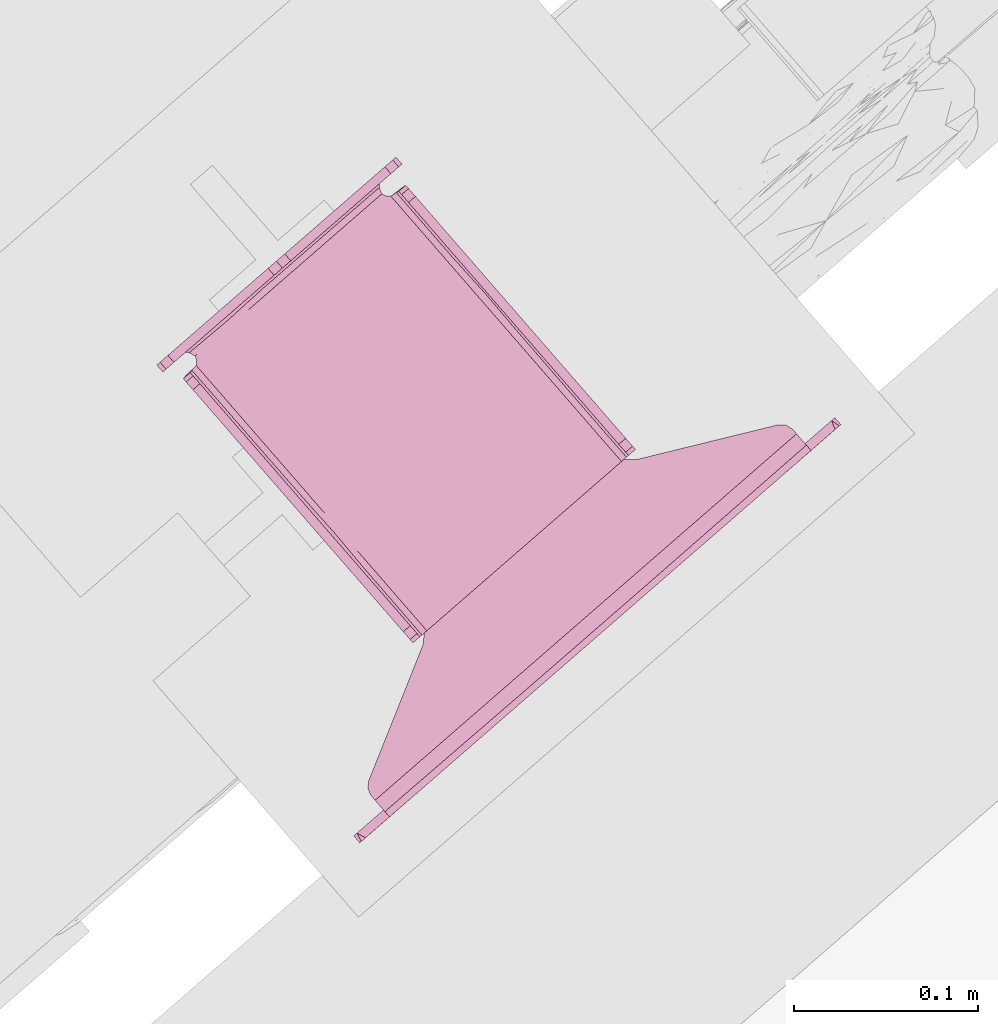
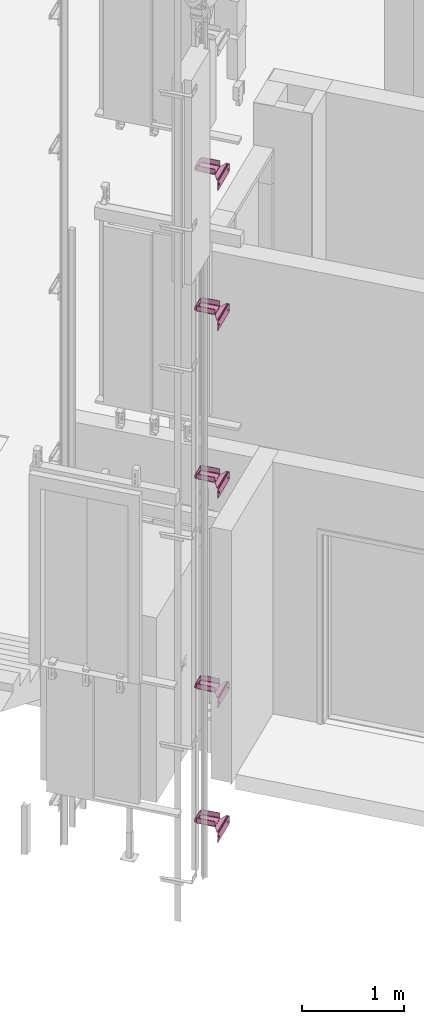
# One storey, part 115 of 124: 5 transport elements.
"""IFC2X3 building model written with IfcOpenShell, lengths in millimetres."""

from ifc_helpers import new_model, entity, si_unit, converted_unit, derived_unit, money_unit, direction, frame, origin_with_axes, place, context, subcontext, project, spatial, faceted_brep, source, transform, mapped, material, material_list, type_object, element, save


model = new_model("IFC2X3")

# Units and contexts
model_context = context("Model", 3, precision=1e-05, world=origin_with_axes(), true_north=direction((0.0, 1.0)))
body_context = subcontext(model_context, "Body", "Model", "MODEL_VIEW")
ifc_project = project(units=[si_unit("LENGTHUNIT", "METRE", prefix="MILLI"), si_unit("AREAUNIT", "SQUARE_METRE"), si_unit("VOLUMEUNIT", "CUBIC_METRE"), converted_unit("PLANEANGLEUNIT", "DEGREE", entity("IfcPlaneAngleMeasure", 0.0174532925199), si_unit("PLANEANGLEUNIT", "RADIAN"), dimensions=[0, 0, 0, 0, 0, 0, 0]), si_unit("SOLIDANGLEUNIT", "STERADIAN"), money_unit("EUR"), converted_unit("TIMEUNIT", "Year", entity("IfcTimeMeasure", 31556926.0), si_unit("TIMEUNIT", "SECOND"), dimensions=[0, 0, 1, 0, 0, 0, 0]), si_unit("MASSUNIT", "GRAM", prefix="KILO"), si_unit("THERMODYNAMICTEMPERATUREUNIT", "DEGREE_CELSIUS"), si_unit("LUMINOUSINTENSITYUNIT", "LUMEN"), si_unit("ENERGYUNIT", "JOULE", prefix="MEGA"), derived_unit("THERMALCONDUCTANCEUNIT", [(si_unit("POWERUNIT", "WATT"), 1), (si_unit("LENGTHUNIT", "METRE"), -1), (si_unit("THERMODYNAMICTEMPERATUREUNIT", "KELVIN"), -1)]), derived_unit("SPECIFICHEATCAPACITYUNIT", [(si_unit("ENERGYUNIT", "JOULE"), 1), (si_unit("MASSUNIT", "GRAM", prefix="KILO"), -1), (si_unit("THERMODYNAMICTEMPERATUREUNIT", "KELVIN"), -1)]), derived_unit("MASSDENSITYUNIT", [(si_unit("MASSUNIT", "GRAM", prefix="KILO"), 1), (si_unit("VOLUMEUNIT", "CUBIC_METRE"), -1)])], contexts=[model_context])

# Site, building, storey
site_placement = place(None, origin_with_axes())
site = spatial("IfcSite", under=ifc_project, at=site_placement, Name="Site", CompositionType="ELEMENT")
building_placement = place(site_placement, origin_with_axes())
building = spatial("IfcBuilding", under=site, at=building_placement, Name="Building", CompositionType="ELEMENT")
storey_placement = place(building_placement, frame((0.0, 0.0, -1615.0), z_axis=(0.0, 0.0, 1.0), x_axis=(1.0, 0.0, 0.0)))
storey = spatial("IfcBuildingStorey", under=building, at=storey_placement, Name="0  korrus", CompositionType="ELEMENT", Elevation=-1615.0)

# Transport elements
ifc_material = material(Name="Generic")
ifc_material_list = material_list([ifc_material, ifc_material])
transport_element_type_1 = type_object("IfcTransportElementType", Name="KONE_Combination_Bracket_KM927051G01_L205-370_LH:KONE_Combination_Bracket_KM927051G01_L205-370_LH", PredefinedType="NOTDEFINED")
shared_shape = source(origin_with_axes(), body_context, "Body", "Brep", [
    faceted_brep([(226.391689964, 263.0, 124.081378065), (226.391689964, 268.0, 124.081378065), (232.048544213, 268.0, 126.424523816), (232.048544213, 263.0, 126.424523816), (221.391689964, 263.0, 124.081378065), (221.391689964, 268.0, 124.081378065), (70.3916899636, 268.0, 124.081378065), (64.7348357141, 268.0, 126.424523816), (62.3916899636, 268.0, 132.081378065), (62.3916899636, 268.0, 160.081378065), (64.7348357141, 268.0, 165.738232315), (70.3916899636, 268.0, 168.081378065), (142.391689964, 268.0, 168.081378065), (148.391689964, 268.0, 162.081378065), (154.391689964, 268.0, 168.081378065), (226.391689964, 268.0, 168.081378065), (232.048544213, 268.0, 165.738232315), (234.391689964, 268.0, 160.081378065), (234.391689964, 268.0, 132.081378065), (219.659639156, 268.0, 123.825940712), (218.075065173, 268.0, 123.081378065), (162.866367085, 268.0, 123.081378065), (78.708314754, 268.0, 123.081378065), (77.1237407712, 268.0, 123.825940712), (75.3916899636, 268.0, 124.081378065), (234.391689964, 263.0, 132.081378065), (148.391689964, 263.0, 162.081378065), (142.391689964, 263.0, 168.081378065), (70.3916899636, 263.0, 168.081378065), (64.7348357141, 263.0, 165.738232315), (62.3916899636, 263.0, 160.081378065), (62.3916899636, 263.0, 132.081378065), (64.7348357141, 263.0, 126.424523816), (70.3916899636, 263.0, 124.081378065), (75.3916899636, 263.0, 124.081378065), (77.1237407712, 263.0, 123.825940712), (78.708314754, 263.0, 123.081378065), (117.746759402, 263.0, 123.081378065), (148.391689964, 263.0, 123.081378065), (179.036620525, 263.0, 123.081378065), (218.075065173, 263.0, 123.081378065), (219.659639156, 263.0, 123.825940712), (234.391689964, 263.0, 160.081378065), (232.048544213, 263.0, 165.738232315), (226.391689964, 263.0, 168.081378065), (154.391689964, 263.0, 168.081378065), (218.075065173, 264.422858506, 123.081378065), (218.075065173, 265.845717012, 123.081378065), (217.703937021, 267.749594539, 120.85755111), (79.0797029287, 267.749226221, 120.855936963), (78.708314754, 265.84568573, 123.081378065), (78.708314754, 264.422842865, 123.081378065), (106.600087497, 261.039236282, 119.111108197), (133.069221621, 261.599756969, 119.611255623), (167.910915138, 261.580662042, 119.591555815), (216.775423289, 261.535848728, 119.546159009), (216.955931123, 262.880428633, 119.164874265), (217.460292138, 264.642341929, 120.493695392), (217.367560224, 265.729464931, 119.559537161), (217.332566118, 267.010189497, 118.743580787), (79.2653304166, 266.244760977, 120.196452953), (79.4510926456, 267.00948187, 118.742111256), (79.3408235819, 264.89248632, 120.310720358), (79.6161585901, 263.338368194, 119.818731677), (80.0079137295, 261.535803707, 119.546113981), (158.723504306, 264.856323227, 115.801897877), (120.346214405, 258.0, 118.081378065), (80.747765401, 259.523295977, 118.712416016), (81.3077697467, 258.0, 118.081378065), (159.384659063, 258.0, 118.081378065), (176.437165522, 258.0, 118.081378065), (216.221761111, 260.849109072, 117.19656657), (216.77268185, 263.303970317, 117.760754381), (216.961157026, 265.818917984, 116.847236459), (79.8224825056, 265.817871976, 116.845924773), (80.0080506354, 263.312263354, 117.769046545), (80.3778398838, 261.333528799, 117.787138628), (81.3077697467, 258.0, 116.6585352), (215.475610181, 258.0, 118.081378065), (216.035614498, 259.523365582, 118.712456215), (216.589738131, 264.235458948, 115.2635106), (80.1938735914, 264.234158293, 115.262473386), (80.318762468, 255.575973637, 118.081378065), (78.3916899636, 253.803847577, 118.081378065), (78.3916899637, 214.765403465, 118.081378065), (78.3916899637, 175.726959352, 118.081378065), (78.3916899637, 147.545219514, 118.081378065), (78.3916899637, 119.363479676, 118.081378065), (78.3916899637, 102.038444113, 118.081378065), (78.3916899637, 63.0, 118.081378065), (218.391689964, 63.0, 118.081378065), (218.391689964, 102.038444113, 118.081378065), (218.391689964, 130.220183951, 118.081378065), (218.391689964, 158.401923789, 118.081378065), (218.391689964, 186.583663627, 118.081378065), (218.391689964, 214.765403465, 118.081378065), (218.391689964, 253.803847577, 118.081378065), (216.464617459, 255.575973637, 118.081378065), (81.3077697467, 258.0, 115.235692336), (81.3077697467, 258.0, 113.081378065), (80.318762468, 255.575973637, 113.081378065), (215.475610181, 258.0, 116.658519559), (215.475610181, 258.0, 115.235661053), (216.218390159, 262.339274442, 114.071899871), (80.5652646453, 262.337773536, 114.071177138), (78.3916899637, 253.803847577, 113.081378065), (78.3916899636, 253.803847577, 115.286270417), (78.3916899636, 253.803847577, 116.683824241), (74.9040391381, 224.325981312, 119.498600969), (74.912107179, 195.246183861, 119.490764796), (75.0247218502, 161.636091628, 119.384957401), (75.3733941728, 136.096414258, 119.095165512), (74.9234654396, 110.700959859, 119.479792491), (74.8561560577, 63.0, 119.545844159), (78.3916899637, 63.0, 115.581378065), (221.960404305, 92.278927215, 119.579338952), (221.994850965, 121.557663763, 119.61479029), (222.087500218, 155.067273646, 119.713739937), (222.389349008, 180.433874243, 120.078259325), (221.914531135, 205.50000201, 119.533196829), (221.92748804, 253.401866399, 119.54610835), (219.950700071, 253.626605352, 118.727209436), (218.391689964, 253.803847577, 116.683823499), (218.391689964, 253.803847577, 115.286268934), (218.391689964, 253.803847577, 113.081378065), (216.464617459, 255.575973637, 113.081378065), (215.475610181, 258.0, 113.081378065), (80.9366545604, 260.223829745, 113.331784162), (218.391689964, 198.595149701, 113.081378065), (218.391689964, 143.386451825, 113.081378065), (218.391689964, 63.0, 113.081378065), (78.3916899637, 63.0, 113.081378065), (78.3916899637, 143.386451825, 113.081378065), (78.3916899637, 198.595149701, 113.081378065), (136.51646853, 258.0, 113.081378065), (215.847005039, 260.225429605, 113.33214922), (76.1662538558, 253.688998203, 113.332150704), (75.5474605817, 253.573928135, 117.182621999), (76.8325408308, 253.626605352, 118.727284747), (74.855823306, 253.401894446, 119.546176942), (218.391689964, 63.0, 115.581378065), (221.92722387, 63.0, 119.545844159), (222.322349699, 253.456351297, 118.2110199), (221.004082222, 253.61189367, 116.446378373), (221.874411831, 253.587493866, 115.340416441), (220.615484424, 253.689082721, 113.331776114), (225.482173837, 170.186956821, 116.029779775), (226.238372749, 116.578488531, 116.882219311), (72.2295784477, 116.60942872, 115.20556816), (71.3012060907, 170.186956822, 116.029779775), (74.0524048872, 253.574151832, 114.071904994), (73.0861150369, 253.402741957, 117.759203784), (73.3916899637, 213.961555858, 123.081378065), (73.3916899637, 253.0, 123.081378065), (73.3916899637, 185.980777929, 123.081378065), (73.3916899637, 158.0, 123.081378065), (73.3916899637, 134.25, 123.081378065), (73.3916899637, 110.5, 123.081378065), (71.3206221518, 63.0, 116.010310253), (223.391689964, 102.038444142, 123.081378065), (223.391689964, 63.0, 123.081378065), (223.391689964, 141.076888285, 123.081378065), (223.391689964, 169.057666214, 123.081378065), (223.391689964, 197.038444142, 123.081378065), (223.391689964, 213.961555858, 123.081378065), (224.290495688, 253.229916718, 120.237161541), (222.72945989, 253.574240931, 114.0711754), (224.625814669, 253.459387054, 115.262446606), (225.462757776, 63.0, 116.010310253), (72.1562222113, 253.459317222, 115.263517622), (73.5212229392, 253.347488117, 119.150753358), (73.3916899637, 63.0, 123.081378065), (68.3916899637, 63.0, 123.081378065), (228.391689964, 63.0, 123.081378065), (223.391689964, 253.0, 123.081378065), (222.745907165, 253.177242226, 121.522155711), (223.713889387, 253.40110386, 117.775807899), (226.209550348, 253.344530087, 116.845910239), (228.391689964, 142.582604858, 123.081378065), (68.3916899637, 142.582604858, 123.081378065), (70.5727586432, 253.344460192, 116.847253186), (71.7566759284, 253.191952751, 120.468993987), (73.3916899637, 253.0, 170.081378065), (73.3916899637, 250.656854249, 175.738232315), (73.3916899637, 245.0, 178.081378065), (73.3916899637, 71.0, 178.081378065), (73.3916899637, 65.3431457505, 175.738232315), (73.3916899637, 63.0, 170.081378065), (71.9941361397, 253.0, 123.081378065), (223.391689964, 71.0, 178.081378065), (223.391689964, 245.0, 178.081378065), (223.391689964, 250.65685425, 175.738232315), (223.391689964, 253.0, 170.081378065), (223.391689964, 63.0, 170.081378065), (223.391689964, 65.3431457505, 175.738232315), (228.391689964, 63.0, 170.081378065), (224.789244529, 253.0, 123.081378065), (226.186799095, 253.0, 123.081378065), (228.391689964, 197.791302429, 123.081378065), (68.3916899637, 197.791302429, 123.081378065), (70.6507336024, 253.216353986, 119.598648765), (68.3916899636, 253.0, 123.081378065), (68.3916899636, 253.0, 170.081378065), (70.5965823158, 253.0, 123.081378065), (68.3916899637, 250.656854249, 175.738232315), (68.3916899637, 245.0, 178.081378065), (68.3916899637, 71.0, 178.081378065), (68.3916899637, 65.3431457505, 175.738232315), (68.3916899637, 63.0, 170.081378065), (228.391689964, 71.0, 178.081378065), (228.391689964, 245.0, 178.081378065), (228.391689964, 250.65685425, 175.738232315), (228.391689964, 253.0, 170.081378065), (228.391689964, 253.0, 123.081378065), (228.391689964, 65.3431457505, 175.738232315), (227.401163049, 253.22969561, 118.742093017), (69.381487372, 253.229606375, 118.743607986), (228.140917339, 253.114849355, 120.855942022), (68.642087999, 253.114764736, 120.857583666)], [[[0, 1, 2, 3]], [[1, 0, 4, 5]], [[6, 7, 8, 9, 10, 11, 12, 13, 14, 15, 16, 17, 18, 2, 1, 5, 19, 20, 21, 22, 23, 24]], [[2, 18, 25, 3]], [[26, 27, 28, 29, 30, 31, 32, 33, 34, 35, 36, 37, 38, 39, 40, 41, 4, 0, 3, 25, 42, 43, 44, 45]], [[4, 41, 19, 5]], [[7, 6, 33, 32]], [[31, 8, 7, 32]], [[31, 30, 9, 8]], [[10, 9, 30, 29]], [[28, 11, 10, 29]], [[11, 28, 27, 12]], [[27, 26, 13, 12]], [[26, 45, 14, 13]], [[14, 45, 44, 15]], [[16, 15, 44, 43]], [[42, 17, 16, 43]], [[17, 42, 25, 18]], [[41, 40, 46, 47, 20, 19]], [[21, 20, 48]], [[49, 22, 21]], [[23, 22, 50, 51, 36, 35]], [[34, 24, 23, 35]], [[24, 34, 33, 6]], [[52, 37, 36]], [[53, 38, 37]], [[54, 39, 38]], [[39, 55, 40]], [[46, 40, 56]], [[46, 57, 47]], [[20, 47, 58]], [[48, 20, 58]], [[21, 48, 59]], [[49, 60, 22]], [[49, 21, 61]], [[22, 60, 50]], [[51, 50, 62]], [[51, 63, 36]], [[37, 52, 53]], [[36, 64, 52]], [[38, 53, 54]], [[55, 39, 54]], [[55, 56, 40]], [[56, 57, 46]], [[47, 57, 58]], [[48, 58, 59]], [[59, 65, 21]], [[60, 49, 61]], [[61, 21, 65]], [[50, 60, 62]], [[63, 51, 62]], [[64, 36, 63]], [[66, 53, 52]], [[52, 64, 67, 68]], [[53, 69, 54]], [[55, 54, 70]], [[71, 56, 55]], [[72, 57, 56]], [[58, 57, 72]], [[73, 59, 58]], [[59, 73, 65]], [[60, 61, 74]], [[65, 74, 61]], [[60, 75, 62]], [[75, 63, 62]], [[63, 76, 64]], [[66, 69, 53]], [[66, 52, 68]], [[76, 67, 64]], [[77, 68, 67]], [[70, 54, 69]], [[70, 78, 79, 55]], [[71, 72, 56]], [[55, 79, 71]], [[58, 72, 80]], [[80, 73, 58]], [[65, 73, 80]], [[75, 60, 74]], [[65, 81, 74]], [[76, 63, 75]], [[82, 83, 84, 85, 86, 87, 88, 89, 90, 91, 92, 93, 94, 95, 96, 97, 78, 70, 69, 66, 68]], [[67, 76, 77]], [[82, 68, 77, 98, 99, 100]], [[101, 79, 78]], [[102, 72, 71]], [[79, 101, 71]], [[103, 80, 72]], [[103, 65, 80]], [[75, 74, 81]], [[65, 104, 81]], [[76, 75, 98]], [[100, 105, 106, 107, 83, 82]], [[108, 84, 83]], [[109, 85, 84]], [[86, 85, 110]], [[86, 111, 87]], [[87, 112, 88]], [[113, 89, 88]], [[90, 89, 114]], [[115, 91, 90]], [[92, 91, 116]], [[117, 93, 92]], [[94, 93, 118]], [[119, 95, 94]], [[95, 120, 121, 96]], [[97, 96, 122, 123, 124, 125]], [[125, 126, 102, 101, 78, 97]], [[98, 77, 76]], [[127, 99, 98]], [[124, 128, 129, 130, 131, 132, 133, 105, 100, 99, 134, 126, 125]], [[72, 102, 103]], [[102, 71, 101]], [[135, 65, 103]], [[75, 81, 104]], [[134, 104, 65]], [[75, 104, 98]], [[105, 136, 106]], [[106, 137, 107]], [[107, 138, 83]], [[108, 109, 84]], [[108, 83, 138, 139]], [[110, 85, 109]], [[86, 110, 111]], [[87, 111, 112]], [[88, 112, 113]], [[113, 114, 89]], [[90, 114, 140]], [[115, 116, 91]], [[141, 115, 90]], [[117, 92, 116]], [[93, 117, 118]], [[118, 119, 94]], [[119, 120, 95]], [[120, 142, 121]], [[122, 96, 121]], [[143, 123, 122]], [[124, 123, 144]], [[135, 102, 126]], [[127, 134, 99]], [[98, 104, 127]], [[124, 145, 128]], [[128, 146, 129]], [[147, 130, 129]], [[130, 114, 131]], [[131, 148, 132]], [[149, 133, 132]], [[136, 105, 133]], [[126, 134, 135]], [[103, 102, 135]], [[134, 65, 135]], [[134, 127, 104]], [[150, 106, 136]], [[106, 151, 137]], [[138, 107, 137]], [[109, 108, 152]], [[139, 138, 137]], [[108, 139, 153]], [[109, 154, 110]], [[110, 155, 111]], [[112, 111, 156]], [[157, 113, 112]], [[114, 113, 158]], [[114, 130, 140]], [[140, 141, 90]], [[116, 115, 159]], [[115, 141, 160]], [[116, 161, 117]], [[118, 117, 162]], [[119, 118, 163]], [[120, 119, 164]], [[165, 142, 120]], [[121, 142, 143]], [[143, 122, 121]], [[123, 143, 144]], [[124, 144, 145]], [[166, 128, 145]], [[167, 146, 128]], [[129, 146, 147]], [[147, 168, 130]], [[131, 114, 158]], [[131, 158, 148]], [[148, 149, 132]], [[133, 149, 169]], [[136, 133, 150]], [[150, 151, 106]], [[170, 137, 151]], [[108, 153, 152]], [[109, 152, 154]], [[137, 170, 139]], [[170, 153, 139]], [[155, 110, 154]], [[156, 111, 155]], [[156, 157, 112]], [[171, 113, 157]], [[113, 172, 158]], [[140, 130, 168]], [[141, 140, 168]], [[115, 160, 159]], [[116, 159, 161]], [[173, 160, 141]], [[162, 117, 161]], [[163, 118, 162]], [[119, 163, 164]], [[164, 174, 175, 120]], [[142, 165, 176]], [[120, 175, 165]], [[142, 176, 143]], [[144, 143, 176]], [[145, 144, 166]], [[128, 166, 167]], [[167, 177, 146]], [[147, 146, 178]], [[147, 173, 168]], [[148, 158, 172]], [[148, 179, 149]], [[149, 180, 169]], [[133, 169, 150]], [[169, 151, 150]], [[151, 181, 170]], [[171, 157, 156, 155, 154, 152, 153, 182, 183, 184, 185, 186, 187]], [[170, 188, 153]], [[172, 113, 171]], [[173, 141, 168]], [[189, 190, 191, 192, 174, 164, 163, 162, 161, 159, 160, 193, 194]], [[173, 195, 160]], [[196, 175, 174]], [[197, 176, 165]], [[175, 196, 165]], [[144, 176, 177]], [[167, 166, 144]], [[167, 144, 177]], [[177, 198, 146]], [[198, 178, 146]], [[173, 147, 178]], [[172, 179, 148]], [[199, 149, 179]], [[149, 199, 180]], [[180, 200, 169]], [[200, 151, 169]], [[200, 181, 151]], [[188, 170, 181]], [[201, 202, 182, 153, 188, 203]], [[202, 204, 183, 182]], [[183, 204, 205, 184]], [[205, 206, 185, 184]], [[206, 207, 186, 185]], [[186, 207, 208, 187]], [[171, 187, 208]], [[208, 172, 171]], [[190, 189, 209, 210]], [[210, 211, 191, 190]], [[191, 211, 212, 192]], [[212, 213, 197, 196, 174, 192]], [[193, 160, 195]], [[195, 214, 194, 193]], [[194, 214, 209, 189]], [[209, 214, 195, 173, 178, 198, 213, 212, 211, 210]], [[215, 176, 197]], [[197, 165, 196]], [[177, 176, 215]], [[215, 198, 177]], [[206, 205, 204, 202, 201, 199, 179, 172, 208, 207]], [[199, 216, 180]], [[180, 216, 200]], [[203, 181, 200]], [[181, 203, 188]], [[201, 203, 200]], [[213, 217, 197]], [[217, 213, 198]], [[215, 197, 217]], [[198, 215, 217]], [[218, 199, 201]], [[216, 199, 218]], [[218, 200, 216]], [[201, 200, 218]]]),
    faceted_brep([(58.3916899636, 2.5, 43.0813780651), (58.3916899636, 0.0, 43.0813780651), (63.3916899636, 0.0, 48.0813780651), (63.3916899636, 5.0, 48.0813780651), (58.3916899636, 5.0, 43.0813780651), (53.3916899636, 5.0, 48.0813780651), (53.3916899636, 0.0, 48.0813780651), (233.391689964, 0.0, 48.0813780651), (58.3916899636, 0.0, 53.0813780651), (58.3916899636, 2.5, 53.0813780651), (58.3916899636, 5.0, 53.0813780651), (238.391689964, 5.0, 43.0813780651), (20.3916899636, 5.0, 34.0813780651), (20.3916899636, 0.0, 34.0813780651), (238.391689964, 0.0, 43.0813780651), (238.391689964, 5.0, 53.0813780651), (233.391689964, 5.0, 48.0813780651), (313.391689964, 5.0, -1.91862193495), (16.8916899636, 5.0, 28.0192002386), (20.3916899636, 5.0, 62.081378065), (20.3916899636, 0.0, 62.081378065), (16.8916899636, 0.0, 28.0192002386), (-16.6083100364, 0.0, -1.91862193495), (238.391689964, 2.5, 43.0813780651), (238.391689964, 0.0, 53.0813780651), (299.991689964, 5.0, 102.081378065), (269.391689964, 5.0, 41.0813780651), (-16.6083100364, 5.0, -1.91862193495), (16.8916899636, 5.0, 68.1435558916), (16.8916899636, 0.0, 68.1435558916), (313.391689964, 0.0, -1.91862193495), (243.391689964, 0.0, 48.0813780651), (243.391689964, 5.0, 48.0813780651), (238.391689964, 2.5, 53.0813780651), (-20.4812933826, 0.0, 101.081378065), (257.227217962, 5.0, 102.081378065), (269.391689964, 5.0, 55.0813780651), (263.329512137, 5.0, 44.581378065), (297.391689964, 5.0, 41.0813780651), (9.89168996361, 0.0, 28.0192002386), (9.89168996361, 5.0, 28.0192002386), (-3.20831003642, 5.0, 102.081378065), (269.391689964, 0.0, 41.0813780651), (263.329512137, 0.0, 44.581378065), (-9.92673209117, 0.0, 101.081378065), (214.46274596, 5.0, 102.081378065), (299.991689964, 6.75735931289, 106.324018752), (240.709455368, 6.75735931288, 106.324018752), (263.329512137, 5.0, 51.5813780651), (297.391689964, 5.0, 55.0813780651), (321.391689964, 5.0, 6.08137806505), (297.391689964, 0.0, 41.0813780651), (319.048544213, 5.0, 0.42452381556), (319.048544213, 0.0, 0.42452381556), (-22.2651642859, 5.0, 0.42452381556), (-22.2651642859, 0.0, 0.42452381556), (6.39168996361, 0.0, 34.0813780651), (6.39168996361, 5.0, 34.0813780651), (-24.6083100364, 5.0, 6.08137806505), (9.89168996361, 0.0, 68.1435558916), (9.89168996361, 5.0, 68.1435558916), (39.5561619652, 5.0, 102.081378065), (-24.6083100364, 0.0, 6.08137806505), (263.329512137, 0.0, 51.5813780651), (0.62782920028, 0.0, 101.081378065), (-18.6080463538, 0.02321277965, 101.827412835), (167.84957759, 5.0, 102.081378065), (299.991689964, 11.0, 108.081378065), (299.991689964, 15.1311773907, 108.081378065), (299.991689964, 15.1311773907, 113.081378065), (299.991689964, 12.0, 113.081378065), (299.991689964, 3.87596159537, 109.913138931), (299.991689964, 0.0417392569, 102.081378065), (203.889808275, 6.9065029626, 106.468094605), (224.191690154, 11.0, 108.081378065), (257.22721836, 11.0, 108.081378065), (269.391689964, 0.0, 55.0813780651), (297.391689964, 0.0, 55.0813780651), (321.391689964, 5.0, 94.0813780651), (303.45386779, 5.0, 44.581378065), (303.45386779, 0.0, 44.581378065), (321.391689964, 0.0, 6.08137806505), (6.39168996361, 5.0, 62.081378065), (6.39168996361, 0.0, 62.081378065), (-24.6083100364, 5.0, 94.0813780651), (28.8650501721, 7.07950810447, 106.623375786), (82.3206339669, 5.0, 102.081378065), (-24.6083100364, 0.0, 94.0813780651), (21.7369517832, 0.0, 101.081378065), (-3.20831003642, 0.0417392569, 102.081378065), (-16.6083100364, 0.0417392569, 102.081378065), (-22.2651642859, 5.0, 99.7382323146), (125.085105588, 5.0, 102.081378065), (186.291689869, 11.0, 108.081378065), (148.391689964, 11.0, 108.081378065), (115.356162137, 11.0, 108.081378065), (82.320633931, 11.0, 108.081378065), (39.5561619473, 11.0, 108.081378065), (-3.20831003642, 11.0, 108.081378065), (-3.20831003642, 15.1311773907, 108.081378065), (-2.03775935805, 19.2975453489, 108.081378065), (1.1313454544, 22.2446770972, 108.081378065), (71.8822067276, 58.6504600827, 108.081378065), (76.6358639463, 63.0711577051, 108.081378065), (78.3916899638, 69.3207096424, 108.081378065), (78.3916899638, 192.0, 108.081378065), (80.7348357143, 197.656854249, 108.081378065), (86.3916899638, 200.0, 108.081378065), (210.391689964, 200.0, 108.081378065), (216.048544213, 197.656854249, 108.081378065), (218.391689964, 192.0, 108.081378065), (218.391689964, 69.3207096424, 108.081378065), (220.147515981, 63.0711577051, 108.081378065), (224.9011732, 58.6504600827, 108.081378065), (295.652034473, 22.2446770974, 108.081378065), (298.821139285, 19.297545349, 108.081378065), (298.821139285, 19.297545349, 113.081378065), (-3.20831003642, 15.1311773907, 113.081378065), (-3.20831003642, 12.0, 113.081378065), (57.2697867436, 12.0, 113.081378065), (148.391690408, 12.0, 113.081378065), (239.513593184, 12.0, 113.081378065), (295.652034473, 22.2446770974, 113.081378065), (224.9011732, 58.6504600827, 113.081378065), (220.147515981, 63.0711577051, 113.081378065), (218.391689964, 69.3207096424, 113.081378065), (218.391689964, 192.0, 113.081378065), (216.048544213, 197.656854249, 113.081378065), (210.391689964, 200.0, 113.081378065), (86.3916899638, 200.0, 113.081378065), (80.7348357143, 197.656854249, 113.081378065), (78.3916899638, 192.0, 113.081378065), (78.3916899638, 69.3207096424, 113.081378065), (76.6358639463, 63.0711577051, 113.081378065), (71.8822067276, 58.6504600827, 113.081378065), (1.1313454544, 22.2446770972, 113.081378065), (-2.03775935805, 19.2975453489, 113.081378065), (275.046427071, 0.0, 101.081378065), (313.391689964, 0.0417392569, 102.081378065), (313.391689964, 5.0, 102.081378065), (317.26467331, 0.0, 101.081378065), (303.45386779, 0.0, 51.5813780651), (303.45386779, 5.0, 51.5813780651), (321.391689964, 0.0, 94.0813780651), (-16.6083100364, 5.0, 102.081378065), (60.9384018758, 6.75735931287, 106.324018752), (-3.20831003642, 6.75735931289, 106.324018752), (-23.4997491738, 0.0, 98.1443900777), (63.9551980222, 0.0, 101.081378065), (-3.20831003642, 3.87596159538, 109.913138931), (131.407601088, 6.94541120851, 106.504081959), (167.341692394, 7.03140000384, 106.581401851), (96.2257561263, 6.651377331, 106.2153206), (106.17345035, 3.51471859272, 109.566659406), (190.609939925, 3.51471863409, 109.566659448), (232.828181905, 0.0, 101.081378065), (296.155549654, 0.0, 101.081378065), (306.710112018, 0.0, 101.081378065), (315.39199539, 0.02320362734, 101.82726589), (319.048544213, 5.0, 99.7382323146), (320.283129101, 0.0, 98.1443900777), (148.391689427, 0.0, 101.081378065)], [[[0, 1, 2, 3, 4]], [[0, 4, 5, 6, 1]], [[2, 1, 7]], [[3, 2, 8, 9, 10]], [[3, 11, 4]], [[4, 12, 5]], [[5, 10, 9, 8, 6]], [[1, 6, 13]], [[7, 1, 14]], [[8, 2, 7]], [[10, 15, 3]], [[16, 11, 3]], [[11, 17, 4]], [[18, 12, 4]], [[19, 5, 12]], [[5, 19, 10]], [[6, 8, 20]], [[20, 13, 6]], [[13, 21, 1]], [[1, 22, 14]], [[23, 11, 16, 7, 14]], [[7, 24, 8]], [[15, 10, 25]], [[15, 16, 3]], [[11, 26, 17]], [[27, 4, 17]], [[21, 13, 12, 18]], [[18, 4, 27]], [[13, 20, 19, 12]], [[10, 19, 28]], [[29, 20, 8]], [[1, 21, 22]], [[30, 14, 22]], [[23, 14, 31, 32, 11]], [[16, 15, 33, 24, 7]], [[8, 24, 34]], [[10, 35, 25]], [[36, 15, 25]], [[11, 37, 26]], [[38, 17, 26]], [[17, 30, 22, 27]], [[39, 21, 18, 40]], [[40, 18, 27]], [[20, 29, 28, 19]], [[28, 41, 10]], [[29, 8, 34]], [[39, 22, 21]], [[42, 14, 30]], [[43, 31, 14]], [[32, 31, 24, 33, 15]], [[37, 11, 32]], [[24, 44, 34]], [[10, 45, 35]], [[46, 25, 35, 45, 47]], [[48, 15, 36]], [[49, 36, 25]], [[43, 42, 26, 37]], [[50, 17, 38]], [[26, 42, 51, 38]], [[17, 52, 53, 30]], [[54, 27, 22, 55]], [[56, 39, 40, 57]], [[27, 58, 40]], [[29, 59, 60, 28]], [[28, 60, 41]], [[10, 41, 61]], [[34, 59, 29]], [[62, 22, 39]], [[42, 43, 14]], [[51, 42, 30]], [[63, 31, 43]], [[31, 63, 24]], [[15, 48, 32]], [[48, 37, 32]], [[24, 64, 44]], [[44, 65, 34]], [[10, 66, 45]], [[46, 67, 68, 69, 70, 71, 72, 25]], [[73, 47, 45]], [[46, 47, 74, 75, 67]], [[76, 63, 48, 36]], [[77, 76, 36, 49]], [[78, 49, 25]], [[63, 43, 37, 48]], [[17, 50, 52]], [[38, 79, 50]], [[51, 80, 79, 38]], [[53, 52, 50, 81]], [[30, 53, 81]], [[58, 27, 54]], [[22, 62, 55]], [[62, 58, 54, 55]], [[39, 56, 62]], [[57, 40, 58]], [[82, 83, 56, 57]], [[59, 83, 82, 60]], [[41, 60, 84]], [[85, 61, 41]], [[10, 61, 86]], [[87, 59, 34]], [[30, 81, 51]], [[24, 63, 76]], [[24, 88, 64]], [[44, 64, 88, 89, 90]], [[65, 44, 90]], [[91, 34, 65]], [[10, 92, 66]], [[45, 66, 73]], [[68, 67, 75, 74, 93, 94, 95, 96, 97, 98, 99, 100, 101, 102, 103, 104, 105, 106, 107, 108, 109, 110, 111, 112, 113, 114, 115]], [[69, 68, 115, 116]], [[117, 118, 119, 120, 121, 70, 69, 116, 122, 123, 124, 125, 126, 127, 128, 129, 130, 131, 132, 133, 134, 135, 136]], [[71, 70, 121]], [[71, 137, 72]], [[25, 72, 138, 139]], [[47, 73, 74]], [[76, 77, 140]], [[141, 77, 49, 142]], [[78, 142, 49]], [[25, 139, 78]], [[79, 142, 50]], [[81, 80, 51]], [[80, 141, 142, 79]], [[78, 143, 81, 50]], [[58, 62, 87, 84]], [[56, 83, 62]], [[57, 58, 82]], [[59, 87, 83]], [[60, 82, 84]], [[144, 41, 84]], [[61, 85, 145]], [[41, 146, 85]], [[86, 61, 145]], [[10, 86, 92]], [[34, 147, 87]], [[76, 140, 24]], [[24, 148, 88]], [[149, 89, 88]], [[90, 89, 41, 144]], [[90, 144, 65]], [[91, 147, 34]], [[65, 144, 91]], [[92, 150, 66]], [[151, 73, 66]], [[73, 93, 74]], [[93, 151, 94]], [[95, 94, 150]], [[96, 95, 152]], [[97, 96, 145]], [[97, 85, 98]], [[98, 146, 41, 89, 149, 118, 117, 99]], [[100, 99, 117, 136]], [[135, 101, 100, 136]], [[135, 134, 102, 101]], [[134, 133, 103, 102]], [[132, 104, 103, 133]], [[104, 132, 131, 105]], [[106, 105, 131, 130]], [[129, 107, 106, 130]], [[107, 129, 128, 108]], [[109, 108, 128, 127]], [[126, 110, 109, 127]], [[125, 111, 110, 126]], [[125, 124, 112, 111]], [[123, 113, 112, 124]], [[123, 122, 114, 113]], [[115, 114, 122, 116]], [[119, 118, 149]], [[153, 154, 120, 119]], [[121, 120, 154]], [[71, 121, 154]], [[155, 137, 71]], [[72, 137, 156, 157, 138]], [[139, 138, 158]], [[143, 140, 77]], [[77, 141, 143]], [[142, 78, 50]], [[78, 139, 159]], [[80, 81, 141]], [[160, 143, 78]], [[143, 141, 81]], [[83, 87, 62]], [[87, 147, 84]], [[84, 82, 58]], [[84, 91, 144]], [[85, 97, 145]], [[85, 146, 98]], [[86, 145, 152]], [[86, 152, 92]], [[24, 140, 157]], [[24, 161, 148]], [[88, 148, 149]], [[91, 84, 147]], [[150, 92, 152]], [[151, 66, 150]], [[93, 73, 151]], [[94, 151, 150]], [[95, 150, 152]], [[152, 145, 96]], [[153, 119, 149]], [[154, 153, 161]], [[71, 154, 155]], [[24, 137, 155]], [[24, 156, 137]], [[24, 157, 156]], [[157, 158, 138]], [[158, 159, 139]], [[160, 140, 143]], [[78, 159, 160]], [[140, 158, 157]], [[24, 155, 161]], [[153, 148, 161]], [[153, 149, 148]], [[161, 155, 154]], [[140, 159, 158]], [[159, 140, 160]]]),
])
transport_element_1_placement = place(storey_placement, frame((147635.383855, 77634.7936288, -898.081360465), z_axis=(0.0, 0.0, 1.0), x_axis=(0.754709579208, 0.656059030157, 0.0)))
element("IfcTransportElement", 1, at=transport_element_1_placement, inside=storey, type_object=transport_element_type_1, material=ifc_material_list, Name="KONE_Combination_Bracket_KM927051G01_L205-370_LH:KONE_Combination_Bracket_KM927051G01_L205-370_LH", ObjectType="KONE_Combination_Bracket_KM927051G01_L205-370_LH", CapacityByNumber=0.0, CapacityByWeight=0.0, OperationType="ELEVATOR", context=body_context, shape_type="MappedRepresentation", body=[
    mapped(shared_shape, transform((0.0, 0.0, 0.0))),
])
transport_element_type_2 = type_object("IfcTransportElementType", Name="KONE_Combination_Bracket_KM927051G01_L205-370_LH:KONE_Combination_Bracket_KM927051G01_L205-370_LH", PredefinedType="NOTDEFINED")
transport_element_2_placement = place(storey_placement, frame((147635.383855, 77634.7936288, 701.918690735), z_axis=(0.0, 0.0, 1.0), x_axis=(0.754709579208, 0.656059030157, 0.0)))
element("IfcTransportElement", 2, at=transport_element_2_placement, inside=storey, type_object=transport_element_type_2, Name="KONE_Combination_Bracket_KM927051G01_L205-370_LH:KONE_Combination_Bracket_KM927051G01_L205-370_LH", ObjectType="KONE_Combination_Bracket_KM927051G01_L205-370_LH", CapacityByNumber=0.0, CapacityByWeight=0.0, OperationType="ELEVATOR", context=body_context, shape_type="MappedRepresentation", body=[
    mapped(shared_shape, transform((0.0, 0.0, 0.0))),
])
transport_element_type_3 = type_object("IfcTransportElementType", Name="KONE_Combination_Bracket_KM927051G01_L205-370_LH:KONE_Combination_Bracket_KM927051G01_L205-370_LH", PredefinedType="NOTDEFINED")
transport_element_3_placement = place(storey_placement, frame((147635.383855, 77634.7936288, 3201.91877074), z_axis=(0.0, 0.0, 1.0), x_axis=(0.754709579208, 0.656059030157, 0.0)))
element("IfcTransportElement", 3, at=transport_element_3_placement, inside=storey, type_object=transport_element_type_3, Name="KONE_Combination_Bracket_KM927051G01_L205-370_LH:KONE_Combination_Bracket_KM927051G01_L205-370_LH", ObjectType="KONE_Combination_Bracket_KM927051G01_L205-370_LH", CapacityByNumber=0.0, CapacityByWeight=0.0, OperationType="ELEVATOR", context=body_context, shape_type="MappedRepresentation", body=[
    mapped(shared_shape, transform((0.0, 0.0, 0.0))),
])
transport_element_type_4 = type_object("IfcTransportElementType", Name="KONE_Combination_Bracket_KM927051G01_L205-370_LH:KONE_Combination_Bracket_KM927051G01_L205-370_LH", PredefinedType="NOTDEFINED")
transport_element_4_placement = place(storey_placement, frame((147635.383855, 77634.7936288, 5201.91883474), z_axis=(0.0, 0.0, 1.0), x_axis=(0.754709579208, 0.656059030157, 0.0)))
element("IfcTransportElement", 4, at=transport_element_4_placement, inside=storey, type_object=transport_element_type_4, Name="KONE_Combination_Bracket_KM927051G01_L205-370_LH:KONE_Combination_Bracket_KM927051G01_L205-370_LH", ObjectType="KONE_Combination_Bracket_KM927051G01_L205-370_LH", CapacityByNumber=0.0, CapacityByWeight=0.0, OperationType="ELEVATOR", context=body_context, shape_type="MappedRepresentation", body=[
    mapped(shared_shape, transform((0.0, 0.0, 0.0))),
])
transport_element_type_5 = type_object("IfcTransportElementType", Name="KONE_Combination_Bracket_KM927051G01_L205-370_LH:KONE_Combination_Bracket_KM927051G01_L205-370_LH", PredefinedType="NOTDEFINED")
transport_element_5_placement = place(storey_placement, frame((147635.383855, 77634.7936288, 6871.91888818), z_axis=(0.0, 0.0, 1.0), x_axis=(0.754709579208, 0.656059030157, 0.0)))
element("IfcTransportElement", 5, at=transport_element_5_placement, inside=storey, type_object=transport_element_type_5, Name="KONE_Combination_Bracket_KM927051G01_L205-370_LH:KONE_Combination_Bracket_KM927051G01_L205-370_LH", ObjectType="KONE_Combination_Bracket_KM927051G01_L205-370_LH", CapacityByNumber=0.0, CapacityByWeight=0.0, OperationType="ELEVATOR", context=body_context, shape_type="MappedRepresentation", body=[
    mapped(shared_shape, transform((0.0, 0.0, 0.0))),
])

save(model, "model.ifc")
